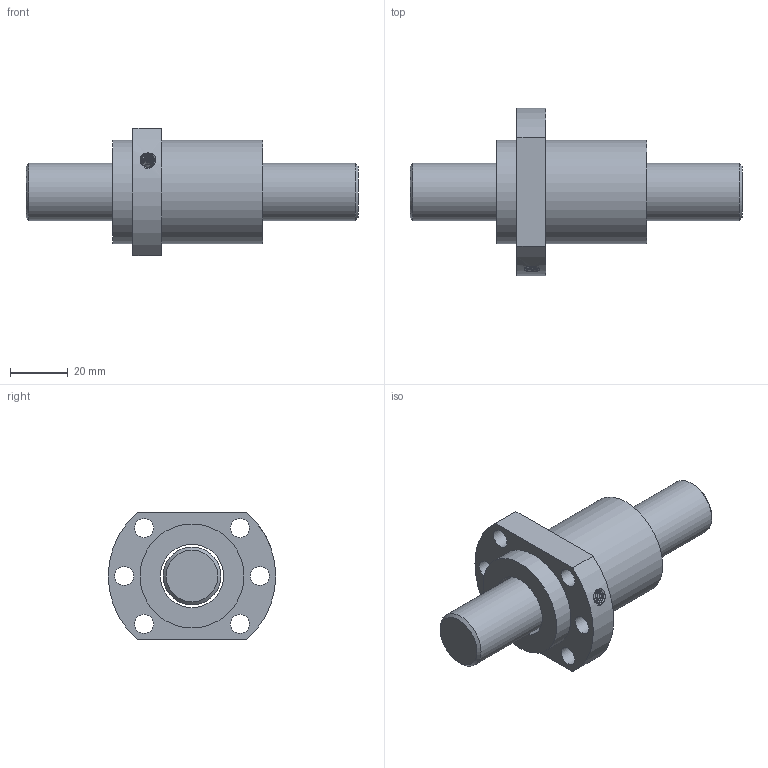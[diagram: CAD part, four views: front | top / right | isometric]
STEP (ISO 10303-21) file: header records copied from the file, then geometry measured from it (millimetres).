
FILE_DESCRIPTION(/* description */ ('Unknown','CAx-IF Rec.Pracs.---Representation and Presentation of Product Manufacturing Information (PMI)---4.0---2014-10-13','CAx-IF Rec.Pracs.---3D Tessellated Geometry---0.4---2014-09-14','2;1'),/* implementation_level */ '2;1');
FILE_NAME(/* name */ 'SFA2010-3.8',/* time_stamp */ '2020-12-08T08:22:00+08:00',/* author */ ('Unknown'),/* organization */ ('Unknown'),/* preprocessor_version */ 'ST-DEVELOPER v16.7',/* originating_system */ 'Solid Edge',/* authorisation */ 'Unknown');
FILE_SCHEMA (('AP242_MANAGED_MODEL_BASED_3D_ENGINEERING_MIM_LF { 1 0 10303 442 1 1 4 }'));
Length unit declared in the file: millimetre
Products named in the file (1): SFA2010-3.8
Bounding box: 115 x 58 x 44 mm (x, y, z)
Volume: 79491.2 mm3; surface area: 22812.8 mm2
Topology: 2 solids, 2 shells, 30 faces, 69 edges, 45 vertices
Faces by surface type: cylinder 16, plane 9, cone 3, bspline 2
Full cylindrical faces by diameter (mm): 4 x1, 4.917 x1, 6.6 x6, 20 x1, 22 x1, 36 x2
Entity records: 2932 total; most frequent: CARTESIAN_POINT 2230, DIRECTION 134, ORIENTED_EDGE 100, AXIS2_PLACEMENT_3D 64, EDGE_LOOP 63, FACE_BOUND 63, EDGE_CURVE 50, VERTEX_POINT 41
